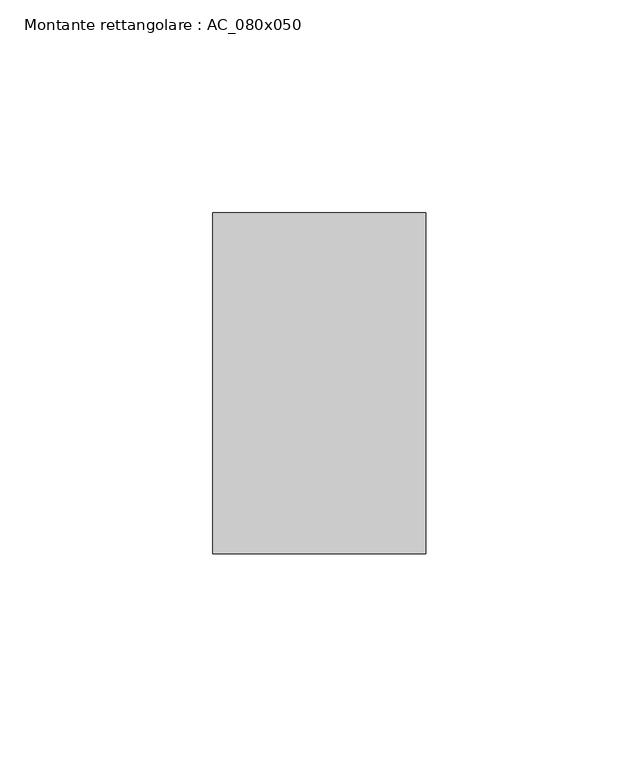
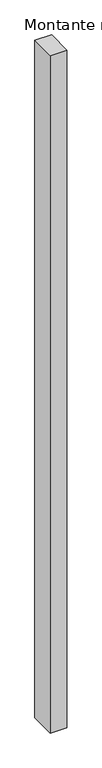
"""IFC4 building model written with IfcOpenShell, lengths in millimetres: member geometry, Montante rettangolare : AC_080x050."""

from ifc_helpers import new_model, si_unit, frame, origin, place, context, project, spatial, polyline, outline, extrude, source, transform, mapped, element, save


def montante_rettangolare_ac_080x050_9d1dc2e1(model_context):
    return source(origin(), model_context, "Body", "SweptSolid", [
        extrude(outline(polyline([(0.0, 40.0), (0.0, -40.0), (-50.0, -40.0), (-50.0, 40.0), (0.0, 40.0)])), frame((0.0, 0.0, -2154.6350288), z_axis=(0.0, 0.0, 1.0), x_axis=(1.0, 0.0, 0.0)), (0.0, 0.0, 1.0), 2154.6350288),
    ])


if __name__ == "__main__":
    model = new_model("IFC4")
    model_context = context("Model", 3, world=origin())
    ifc_project = project(units=[si_unit("LENGTHUNIT", "METRE", prefix="MILLI")], contexts=[model_context])
    site = spatial("IfcSite", under=ifc_project)
    building = spatial("IfcBuilding", under=site)
    placement = place(None, origin())
    montante_rettangolare_ac_080x050_shape = montante_rettangolare_ac_080x050_9d1dc2e1(model_context)
    element("IfcMember", 1, ObjectType="Montante rettangolare : AC_080x050", at=placement, inside=building, context=model_context, shape_type="MappedRepresentation", body=[
        mapped(montante_rettangolare_ac_080x050_shape, transform((0.0, 0.0, 0.0), x_axis=(1.0, 0.0, 0.0), y_axis=(0.0, 1.0, 0.0), z_axis=(0.0, 0.0, 1.0))),
    ])
    save(model, "model.ifc")
